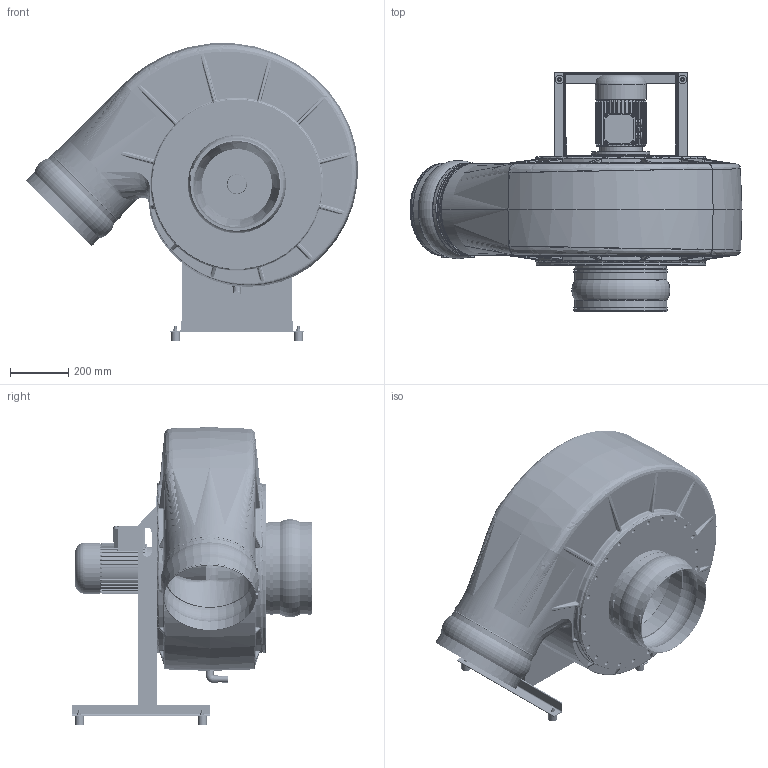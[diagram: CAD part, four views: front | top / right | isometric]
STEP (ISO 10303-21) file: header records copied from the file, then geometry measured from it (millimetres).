
FILE_DESCRIPTION( ( 'Unknown' ), '1' );
FILE_NAME( 'K:/HOME/HLT_CAD/Z/HF/3D/Zusammenstellung/HFR/HFR 15_17/HFR...-15D/DS_1/HFR_315-15D/GR135/HFR_315-15D_DS1_GR_135_090.stp', 'Unknown', ( 'Unknown' ), ( 'Unknown' ), 'PSStep 14.0', 'Unknown', ' ' );
FILE_SCHEMA( ( 'AUTOMOTIVE_DESIGN { 1 0 10303 214 1 1 1 1 }' ) );
Length unit declared in the file: millimetre
Products named in the file (32): 5158_Gehäusedeckel_315; 5158_Rohr; GD_FL 315; 315; 5158_Rohr_250; 5159_Kondensatablauf_125-315; Winkel_90°_G1_2; Stopfen_G1_2-oa4; Rohr_20; Verschlusskappe_20; 6203_Kugelmanschette; 6203_Manschettenband_HFR315; 6203_Schelle_HFR315; 5217_Laufradbefestigung; 5217_Drehteil; 5217_Flachdichtung_Ø32; 5217_Schraubkappe; 5217_Flachdichtung_Ø63; HFR 315_GR; Ensat-Buchse-M8; 5326_Gestell_HFR_315_15_D_DS1; 360-oa0; Angle 40x40x4-oa1; Angle 40x40x4-oa2; Angle 40x40x4-oa3; Assem1; Laufrad 315_GR; 6611_Motorring_Bg80; Schwidä_30x30; 6kant_M8; B5_90L_2HIHI
Assembly tree (95 placements, depth 3):
  Assem1
    Laufrad 315_GR
    6611_Motorring_Bg80
    Schwidä_30x30  x4
    6kant_M8  x4
    B5_90L_2HIHI
    5326_Gestell_HFR_315_15_D_DS1
      360-oa0
      Angle 40x40x4-oa1
      Angle 40x40x4-oa2
      Angle 40x40x4-oa3
    HFR 315_GR
      HFR 315_GR
      Ensat-Buchse-M8  x56
    5158_Gehäusedeckel_315
      5158_Rohr
      GD_FL 315
      315  x2
      5158_Rohr_250
    5159_Kondensatablauf_125-315
      Winkel_90°_G1_2
      Stopfen_G1_2-oa4
      Rohr_20
      Verschlusskappe_20
    6203_Kugelmanschette  x2
      6203_Manschettenband_HFR315
      6203_Schelle_HFR315
    5217_Laufradbefestigung
      5217_Drehteil
      5217_Flachdichtung_Ø32
      5217_Schraubkappe
      5217_Flachdichtung_Ø63
Bounding box: 1144.46 x 827 x 1026.07 mm (x, y, z)
Volume: 15639896.7 mm3; surface area: 7900004.3 mm2
Topology: 90 solids, 92 shells, 3325 faces, 6993 edges, 4359 vertices
Faces by surface type: plane 1409, cylinder 1105, bspline 362, torus 223, cone 134, sphere 48, offset 36, revolution 8
Full cylindrical faces by diameter (mm): 6.647 x65, 8 x14, 9 x2, 10 x4, 10.5 x1, 11 x8, 12 x229, 13 x233, 15 x28, 16 x6, 17 x49, 20 x4, 20.955 x1, 22.212 x1, 23 x1, 24 x5, 25 x1, 26.5 x2, 28.8 x1, 30 x4, 30.291 x1, 32 x1, 33.25 x1, 37 x1, 40 x1, 44 x1, 46 x1, 50 x1, 52 x1, 53 x1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
Entity records: 180772 total; most frequent: CARTESIAN_POINT 103191, DIRECTION 11469, ORIENTED_EDGE 10360, EDGE_CURVE 5180, AXIS2_PLACEMENT_3D 4878, EDGE_LOOP 3783, VERTEX_POINT 3502, FACE_OUTER_BOUND 3246
